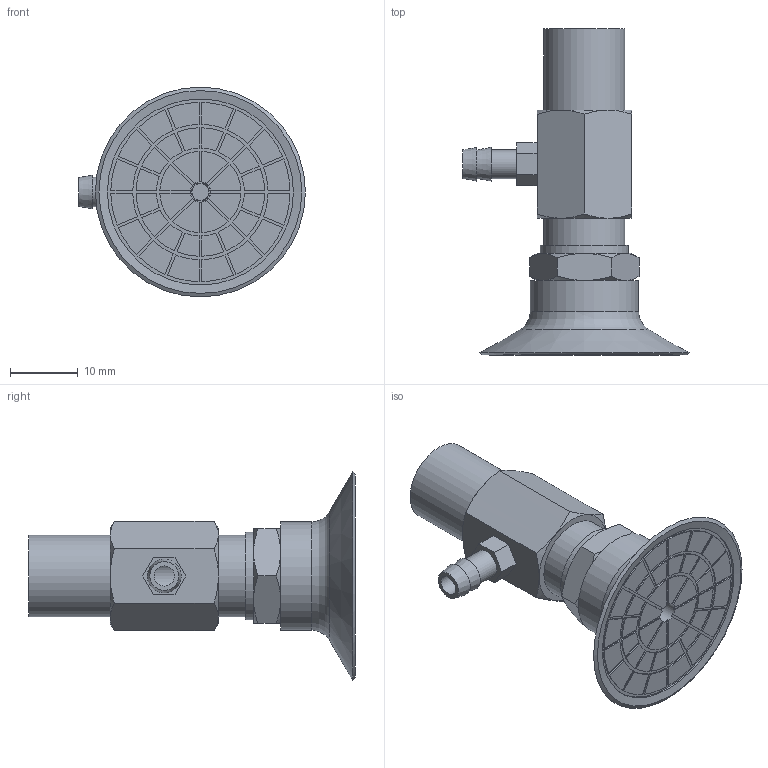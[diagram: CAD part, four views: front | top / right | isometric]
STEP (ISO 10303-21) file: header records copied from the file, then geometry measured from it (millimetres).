
FILE_DESCRIPTION(('STEP AP203'),'1');
FILE_NAME('.stp','2025-05-30T05:29:00',(' '),(' '),'Spatial InterOp 3D',' ',' ');
FILE_SCHEMA(('CONFIG_CONTROL_DESIGN'));
Length unit declared in the file: millimetre
Products named in the file (5): BBPAYK-30B-※; TN-PA-30B-M6; BPAYK-30B(2); BPAG-30B-※; BPAYK-30B
Assembly tree (4 placements, depth 2):
  BBPAYK-30B-※
    TN-PA-30B-M6
    BPAYK-30B(2)
    BPAG-30B-※
    BPAYK-30B
Bounding box: 33.52 x 48.2 x 31.04 mm (x, y, z)
Volume: 8195.6 mm3; surface area: 5865.3 mm2
Topology: 4 solids, 4 shells, 305 faces, 721 edges, 469 vertices
Faces by surface type: plane 174, cylinder 90, cone 35, torus 6
Full cylindrical faces by diameter (mm): 2.5 x1, 3 x3, 4.26 x1, 4.917 x2, 5 x1, 6 x3, 10 x2, 12 x2, 13 x1, 16 x1, 27.5 x1
Entity records: 9027 total; most frequent: CARTESIAN_POINT 1807, DIRECTION 1481, ORIENTED_EDGE 1350, EDGE_CURVE 675, AXIS2_PLACEMENT_3D 552, VERTEX_POINT 460, EDGE_LOOP 394, LINE 377
